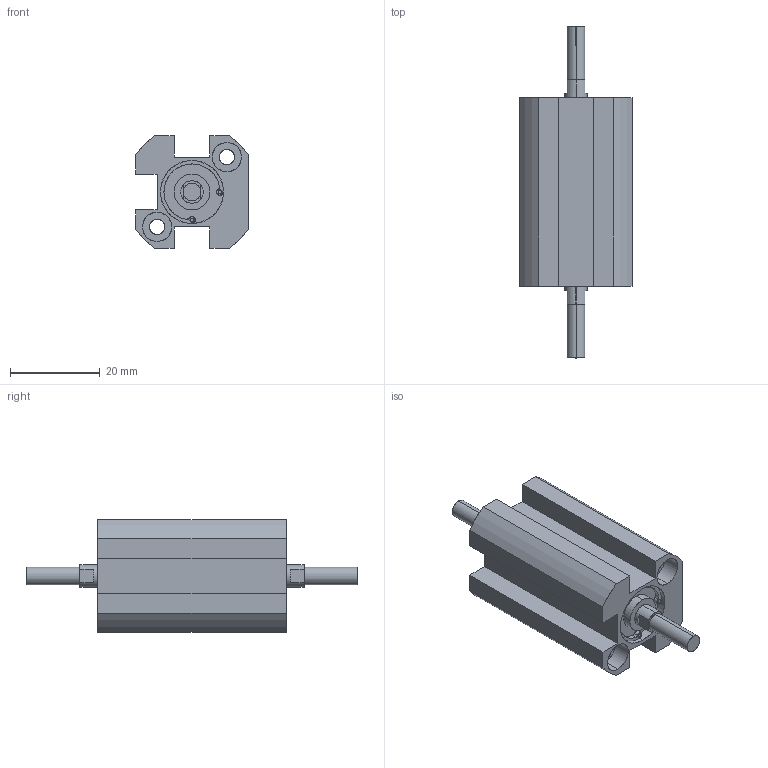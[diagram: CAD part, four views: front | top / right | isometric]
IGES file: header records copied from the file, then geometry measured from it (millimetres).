
Start section: SolidWorks IGES file using analytic representation for surfaces
Global section: file name: C:\Users\Toshiba\Desktop\XG#M7-10-10.IGS; native system: SolidWorks 2014; preprocessor: SolidWorks 2014; author: Toshiba; date: 160524.102108; units: millimetre
Bounding box: 25 x 74 x 25 mm (x, y, z)
Surface area: 8004.2 mm2 (no closed solid volume)
Topology: 0 solids, 0 shells, 108 faces, 1780 edges, 1776 vertices
Faces by surface type: revolution 62, bspline 46
